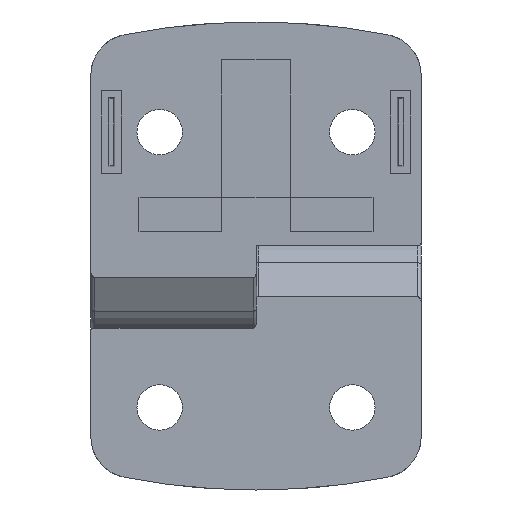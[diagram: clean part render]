
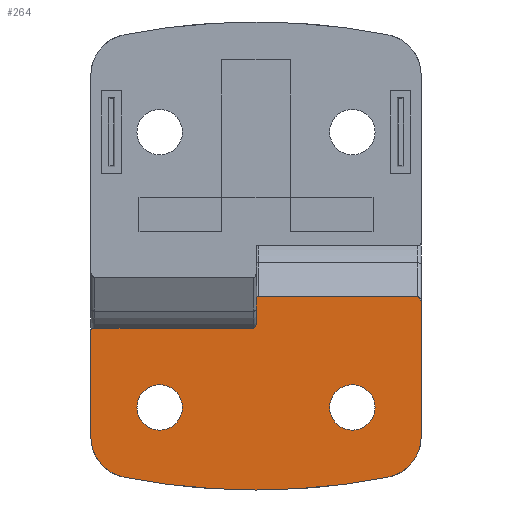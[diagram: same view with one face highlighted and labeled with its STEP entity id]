
A CAD part, front view. The second image highlights one B-rep face of the part: STEP entity #264.
In plain terms, the highlighted planar face has unit normal (0, -1, 0).
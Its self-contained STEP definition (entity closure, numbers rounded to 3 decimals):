
#264=ADVANCED_FACE('NONE',(#654,#655,#656),#657,.T.);
#654=FACE_OUTER_BOUND('',#1311,.T.);
#655=FACE_BOUND('',#1312,.T.);
#656=FACE_BOUND('',#1313,.T.);
#657=PLANE('',#1314);
#1311=EDGE_LOOP('',(#3125,#3126,#3127,#3128,#3129,#3130,#3131,#3132,#3133,#3134,#3135,#3136,#3137));
#1312=EDGE_LOOP('',(#3138,#3139));
#1313=EDGE_LOOP('',(#3140,#3141));
#1314=AXIS2_PLACEMENT_3D('',#3142,#3143,#3144);
#3125=ORIENTED_EDGE('',*,*,#4418,.T.);
#3126=ORIENTED_EDGE('',*,*,#4419,.T.);
#3127=ORIENTED_EDGE('',*,*,#4406,.T.);
#3128=ORIENTED_EDGE('',*,*,#4420,.T.);
#3129=ORIENTED_EDGE('',*,*,#4421,.F.);
#3130=ORIENTED_EDGE('',*,*,#4422,.T.);
#3131=ORIENTED_EDGE('',*,*,#4423,.T.);
#3132=ORIENTED_EDGE('',*,*,#4330,.F.);
#3133=ORIENTED_EDGE('',*,*,#4402,.F.);
#3134=ORIENTED_EDGE('',*,*,#4424,.F.);
#3135=ORIENTED_EDGE('',*,*,#4425,.T.);
#3136=ORIENTED_EDGE('',*,*,#4272,.F.);
#3137=ORIENTED_EDGE('',*,*,#4426,.T.);
#3138=ORIENTED_EDGE('',*,*,#4309,.F.);
#3139=ORIENTED_EDGE('',*,*,#4427,.F.);
#3140=ORIENTED_EDGE('',*,*,#4428,.F.);
#3141=ORIENTED_EDGE('',*,*,#4429,.F.);
#3142=CARTESIAN_POINT('',(-80.546,0.136,13.915));
#3143=DIRECTION('',(0.0,-1.0,0.0));
#3144=DIRECTION('',(0.0,0.0,-1.0));
#4272=EDGE_CURVE('NONE',#4844,#4845,#4846,.T.);
#4309=EDGE_CURVE('NONE',#4911,#4907,#4913,.T.);
#4330=EDGE_CURVE('NONE',#4948,#4942,#4950,.T.);
#4402=EDGE_CURVE('NONE',#5069,#4948,#5071,.T.);
#4406=EDGE_CURVE('NONE',#5077,#5075,#5078,.T.);
#4418=EDGE_CURVE('NONE',#5098,#5099,#5100,.T.);
#4419=EDGE_CURVE('NONE',#5099,#5077,#5101,.T.);
#4420=EDGE_CURVE('NONE',#5075,#5102,#5103,.T.);
#4421=EDGE_CURVE('NONE',#5104,#5102,#5105,.T.);
#4422=EDGE_CURVE('NONE',#5104,#5106,#5107,.T.);
#4423=EDGE_CURVE('NONE',#5106,#4942,#5108,.T.);
#4424=EDGE_CURVE('NONE',#5109,#5069,#5110,.T.);
#4425=EDGE_CURVE('NONE',#5109,#4845,#5111,.T.);
#4426=EDGE_CURVE('NONE',#4844,#5098,#5112,.T.);
#4427=EDGE_CURVE('NONE',#4907,#4911,#5113,.T.);
#4428=EDGE_CURVE('NONE',#5114,#5115,#5116,.T.);
#4429=EDGE_CURVE('NONE',#5115,#5114,#5117,.T.);
#4844=VERTEX_POINT('NONE',#5664);
#4845=VERTEX_POINT('NONE',#5665);
#4846=LINE('',#5666,#5667);
#4907=VERTEX_POINT('NONE',#5886);
#4911=VERTEX_POINT('NONE',#5891);
#4913=CIRCLE('',#5894,3.3);
#4942=VERTEX_POINT('NONE',#5997);
#4948=VERTEX_POINT('NONE',#6067);
#4950=CIRCLE('',#6070,6.);
#5069=VERTEX_POINT('NONE',#6329);
#5071=CIRCLE('',#6332,100.0);
#5075=VERTEX_POINT('NONE',#6341);
#5077=VERTEX_POINT('NONE',#6344);
#5078=LINE('',#6345,#6346);
#5098=VERTEX_POINT('NONE',#6372);
#5099=VERTEX_POINT('NONE',#6373);
#5100=LINE('',#6374,#6375);
#5101=(B_SPLINE_CURVE(3,(#6377,#6378,#6379,#6380),.UNSPECIFIED.,.F.,.F.)B_SPLINE_CURVE_WITH_KNOTS((4,4),(3.142,4.712),.UNSPECIFIED.)RATIONAL_B_SPLINE_CURVE((1.0,0.805,0.805,1.0))BOUNDED_CURVE()REPRESENTATION_ITEM('')GEOMETRIC_REPRESENTATION_ITEM()CURVE());
#5102=VERTEX_POINT('NONE',#6387);
#5103=(B_SPLINE_CURVE(3,(#6389,#6390,#6391,#6392),.UNSPECIFIED.,.F.,.F.)B_SPLINE_CURVE_WITH_KNOTS((4,4),(1.571,3.142),.UNSPECIFIED.)RATIONAL_B_SPLINE_CURVE((1.0,0.805,0.805,1.0))BOUNDED_CURVE()REPRESENTATION_ITEM('')GEOMETRIC_REPRESENTATION_ITEM()CURVE());
#5104=VERTEX_POINT('NONE',#6399);
#5105=LINE('',#6400,#6401);
#5106=VERTEX_POINT('NONE',#6402);
#5107=(B_SPLINE_CURVE(3,(#6404,#6405,#6406,#6407),.UNSPECIFIED.,.F.,.F.)B_SPLINE_CURVE_WITH_KNOTS((4,4),(3.142,4.712),.UNSPECIFIED.)RATIONAL_B_SPLINE_CURVE((1.0,0.805,0.805,1.0))BOUNDED_CURVE()REPRESENTATION_ITEM('')GEOMETRIC_REPRESENTATION_ITEM()CURVE());
#5108=LINE('',#6414,#6415);
#5109=VERTEX_POINT('NONE',#6416);
#5110=CIRCLE('',#6417,100.0);
#5111=CIRCLE('',#6418,6.);
#5112=(B_SPLINE_CURVE(3,(#6420,#6421,#6422,#6423),.UNSPECIFIED.,.F.,.F.)B_SPLINE_CURVE_WITH_KNOTS((4,4),(1.571,3.142),.UNSPECIFIED.)RATIONAL_B_SPLINE_CURVE((1.0,0.805,0.805,1.0))BOUNDED_CURVE()REPRESENTATION_ITEM('')GEOMETRIC_REPRESENTATION_ITEM()CURVE());
#5113=CIRCLE('',#6430,3.3);
#5114=VERTEX_POINT('NONE',#6431);
#5115=VERTEX_POINT('NONE',#6432);
#5116=CIRCLE('',#6433,3.3);
#5117=CIRCLE('',#6434,3.3);
#5664=CARTESIAN_POINT('',(-25.046,0.136,10.366));
#5665=CARTESIAN_POINT('',(-25.046,0.136,-8.979));
#5666=CARTESIAN_POINT('',(-25.046,0.136,13.915));
#5667=VECTOR('',#8226,1000.0);
#5886=CARTESIAN_POINT('',(-63.046,0.136,-1.419));
#5891=CARTESIAN_POINT('',(-63.046,0.136,-8.019));
#5894=AXIS2_PLACEMENT_3D('',#8259,#8260,#8261);
#5997=CARTESIAN_POINT('',(-73.046,0.136,-8.979));
#6067=CARTESIAN_POINT('',(-68.195,0.136,-14.868));
#6070=AXIS2_PLACEMENT_3D('',#8283,#8284,#8285);
#6329=CARTESIAN_POINT('',(-49.046,0.136,-16.719));
#6332=AXIS2_PLACEMENT_3D('',#8361,#8362,#8363);
#6341=CARTESIAN_POINT('',(-49.046,0.136,7.301));
#6344=CARTESIAN_POINT('',(-49.046,0.136,10.766));
#6345=CARTESIAN_POINT('',(-49.046,0.136,12.781));
#6346=VECTOR('',#8365,1000.0);
#6372=CARTESIAN_POINT('',(-25.546,0.136,11.366));
#6373=CARTESIAN_POINT('',(-48.746,0.136,11.366));
#6374=CARTESIAN_POINT('',(-25.046,0.136,11.366));
#6375=VECTOR('',#8384,1000.0);
#6377=CARTESIAN_POINT('',(-48.746,0.136,11.366));
#6378=CARTESIAN_POINT('',(-48.921,0.136,11.366));
#6379=CARTESIAN_POINT('',(-49.046,0.136,11.117));
#6380=CARTESIAN_POINT('',(-49.046,0.136,10.766));
#6387=CARTESIAN_POINT('',(-49.546,0.136,6.781));
#6389=CARTESIAN_POINT('',(-49.046,0.136,7.301));
#6390=CARTESIAN_POINT('',(-49.046,0.136,6.997));
#6391=CARTESIAN_POINT('',(-49.253,0.136,6.781));
#6392=CARTESIAN_POINT('',(-49.546,0.136,6.781));
#6399=CARTESIAN_POINT('',(-72.746,0.136,6.781));
#6400=CARTESIAN_POINT('',(-73.271,0.136,6.781));
#6401=VECTOR('',#8385,1000.0);
#6402=CARTESIAN_POINT('',(-73.046,0.136,6.469));
#6404=CARTESIAN_POINT('',(-72.746,0.136,6.781));
#6405=CARTESIAN_POINT('',(-72.921,0.136,6.781));
#6406=CARTESIAN_POINT('',(-73.046,0.136,6.652));
#6407=CARTESIAN_POINT('',(-73.046,0.136,6.469));
#6414=CARTESIAN_POINT('',(-73.046,0.136,13.915));
#6415=VECTOR('',#8386,1000.0);
#6416=CARTESIAN_POINT('',(-29.897,0.136,-14.868));
#6417=AXIS2_PLACEMENT_3D('',#8387,#8388,#8389);
#6418=AXIS2_PLACEMENT_3D('',#8390,#8391,#8392);
#6420=CARTESIAN_POINT('',(-25.046,0.136,10.366));
#6421=CARTESIAN_POINT('',(-25.046,0.136,10.952));
#6422=CARTESIAN_POINT('',(-25.253,0.136,11.366));
#6423=CARTESIAN_POINT('',(-25.546,0.136,11.366));
#6430=AXIS2_PLACEMENT_3D('',#8393,#8394,#8395);
#6431=CARTESIAN_POINT('',(-35.046,0.136,-8.019));
#6432=CARTESIAN_POINT('',(-35.046,0.136,-1.419));
#6433=AXIS2_PLACEMENT_3D('',#8396,#8397,#8398);
#6434=AXIS2_PLACEMENT_3D('',#8399,#8400,#8401);
#8226=DIRECTION('',(0.0,0.0,-1.0));
#8259=CARTESIAN_POINT('',(-63.046,0.136,-4.719));
#8260=DIRECTION('',(0.0,-1.0,0.0));
#8261=DIRECTION('',(0.0,0.0,-1.0));
#8283=CARTESIAN_POINT('',(-67.046,0.136,-8.979));
#8284=DIRECTION('',(0.0,1.0,0.0));
#8285=DIRECTION('',(0.0,0.0,1.0));
#8361=CARTESIAN_POINT('',(-49.046,0.136,83.281));
#8362=DIRECTION('',(0.0,1.0,0.0));
#8363=DIRECTION('',(0.0,0.0,-1.0));
#8365=DIRECTION('',(0.0,0.,-1.0));
#8384=DIRECTION('',(-1.0,-0.0,-0.0));
#8385=DIRECTION('',(1.0,0.0,0.0));
#8386=DIRECTION('',(0.0,0.0,-1.0));
#8387=CARTESIAN_POINT('',(-49.046,0.136,83.281));
#8388=DIRECTION('',(0.0,1.0,0.0));
#8389=DIRECTION('',(0.0,0.0,-1.0));
#8390=CARTESIAN_POINT('',(-31.046,0.136,-8.979));
#8391=DIRECTION('',(0.0,-1.0,0.0));
#8392=DIRECTION('',(0.0,0.0,-1.0));
#8393=CARTESIAN_POINT('',(-63.046,0.136,-4.719));
#8394=DIRECTION('',(0.0,-1.0,0.0));
#8395=DIRECTION('',(0.0,0.0,-1.0));
#8396=CARTESIAN_POINT('',(-35.046,0.136,-4.719));
#8397=DIRECTION('',(0.0,-1.0,0.0));
#8398=DIRECTION('',(0.0,0.0,-1.0));
#8399=CARTESIAN_POINT('',(-35.046,0.136,-4.719));
#8400=DIRECTION('',(0.0,-1.0,0.0));
#8401=DIRECTION('',(0.0,0.0,-1.0));
